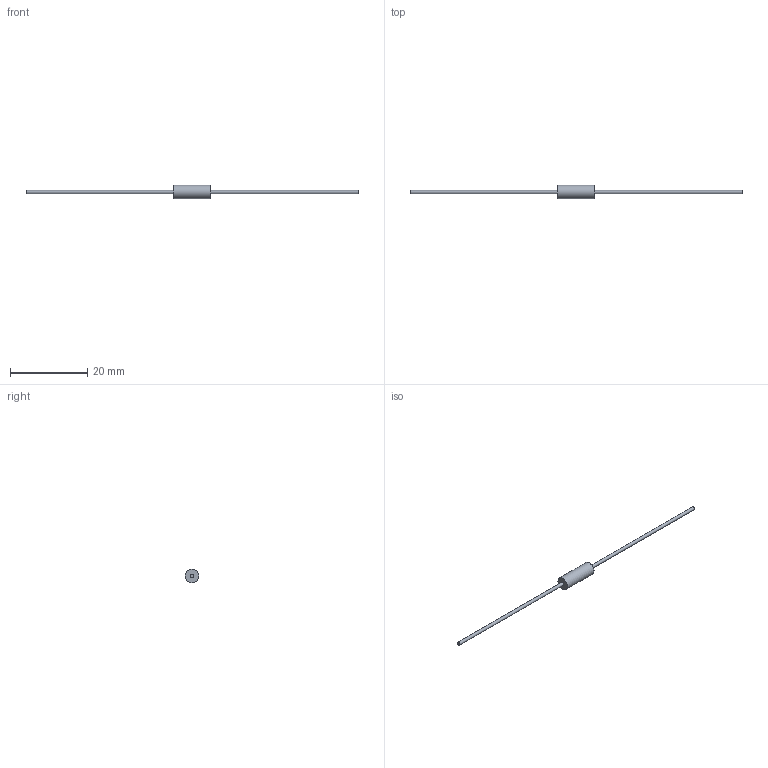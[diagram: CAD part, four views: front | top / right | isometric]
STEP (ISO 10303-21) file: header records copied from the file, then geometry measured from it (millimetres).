
FILE_DESCRIPTION(/* description */ (''),/* implementation_level */ '2;1');
FILE_NAME(/* name */ 'C:\Users\mulla\Documents\SEI Models\Inventor Files\WW_MWW_NWW_WWS\3D\MWW1_NMWW1_stp.stp',/* time_stamp */ '2019-07-10T21:31:19-04:00',/* author */ ('mulla'),/* organization */ (''),/* preprocessor_version */ 'ST-DEVELOPER v16.1',/* originating_system */ 'Autodesk Inventor 2016',/* authorisation */ '');
FILE_SCHEMA (('AUTOMOTIVE_DESIGN { 1 0 10303 214 3 1 1 }'));
Length unit declared in the file: millimetre
Products named in the file (1): MWW1_NMWW1
Bounding box: 85.98 x 3.43 x 3.43 mm (x, y, z)
Volume: 129.6 mm3; surface area: 319.8 mm2
Topology: 3 solids, 3 shells, 9 faces, 9 edges, 6 vertices
Faces by surface type: plane 6, cylinder 3
Full cylindrical faces by diameter (mm): 0.81 x2, 3.43 x1
Entity records: 199 total; most frequent: DIRECTION 32, CARTESIAN_POINT 22, AXIS2_PLACEMENT_3D 16, EDGE_LOOP 12, ORIENTED_EDGE 12, STYLED_ITEM 12, FACE_OUTER_BOUND 9, ADVANCED_FACE 9
